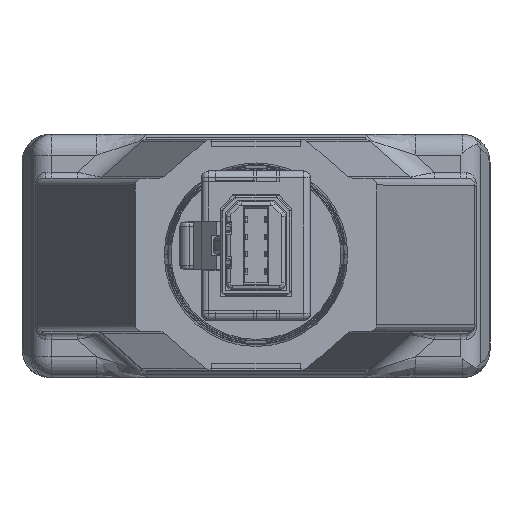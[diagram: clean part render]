
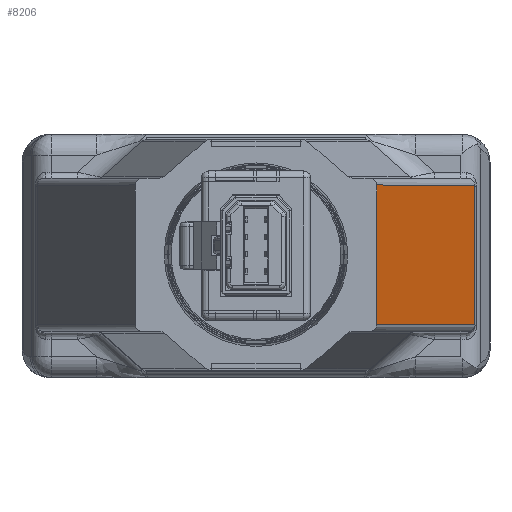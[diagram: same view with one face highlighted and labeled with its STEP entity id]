
A CAD part, top view. The second image highlights one B-rep face of the part: STEP entity #8206.
In plain terms, the highlighted planar face has unit normal (0.901, 0, 0.433).
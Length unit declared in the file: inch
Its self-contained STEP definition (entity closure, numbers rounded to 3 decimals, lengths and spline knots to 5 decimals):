
#732=DIRECTION('',(0.,1.,0.));
#733=VECTOR('',#732,0.404);
#734=CARTESIAN_POINT('',(0.35,-0.202,1.22269));
#735=LINE('',#734,#733);
#1200=CARTESIAN_POINT('',(0.634,-0.202,0.63153));
#1216=DIRECTION('',(0.433,0.,-0.901));
#1217=VECTOR('',#1216,0.65584);
#1218=CARTESIAN_POINT('',(0.35,0.202,1.22269));
#1219=LINE('',#1218,#1217);
#1220=DIRECTION('',(0.,1.,0.));
#1221=VECTOR('',#1220,0.404);
#1222=CARTESIAN_POINT('',(0.634,-0.202,0.63153));
#1223=LINE('',#1222,#1221);
#1224=DIRECTION('',(-0.433,0.,0.901));
#1225=VECTOR('',#1224,0.65584);
#1226=CARTESIAN_POINT('',(0.634,-0.202,0.63153));
#1227=LINE('',#1226,#1225);
#1228=CARTESIAN_POINT('',(0.634,0.202,0.63153));
#5926=VERTEX_POINT('',#1200);
#5928=VERTEX_POINT('',#1228);
#6036=CARTESIAN_POINT('',(0.35,0.202,1.22269));
#6037=VERTEX_POINT('',#6036);
#6038=CARTESIAN_POINT('',(0.35,-0.202,1.22269));
#6039=VERTEX_POINT('',#6038);
#8193=CARTESIAN_POINT('',(0.634,-0.352,0.63153));
#8194=DIRECTION('',(-0.901,0.,-0.433));
#8195=DIRECTION('',(-0.433,0.,0.901));
#8196=AXIS2_PLACEMENT_3D('',#8193,#8194,#8195);
#8197=PLANE('',#8196);
#8199=ORIENTED_EDGE('',*,*,#8198,.T.);
#8201=ORIENTED_EDGE('',*,*,#8200,.F.);
#8202=ORIENTED_EDGE('',*,*,#8188,.T.);
#8203=ORIENTED_EDGE('',*,*,#7543,.T.);
#8204=EDGE_LOOP('',(#8199,#8201,#8202,#8203));
#8205=FACE_OUTER_BOUND('',#8204,.F.);
#8206=ADVANCED_FACE('',(#8205),#8197,.F.);
#7543=EDGE_CURVE('',#6039,#6037,#735,.T.);
#8188=EDGE_CURVE('',#5926,#6039,#1227,.T.);
#8198=EDGE_CURVE('',#6037,#5928,#1219,.T.);
#8200=EDGE_CURVE('',#5926,#5928,#1223,.T.);
